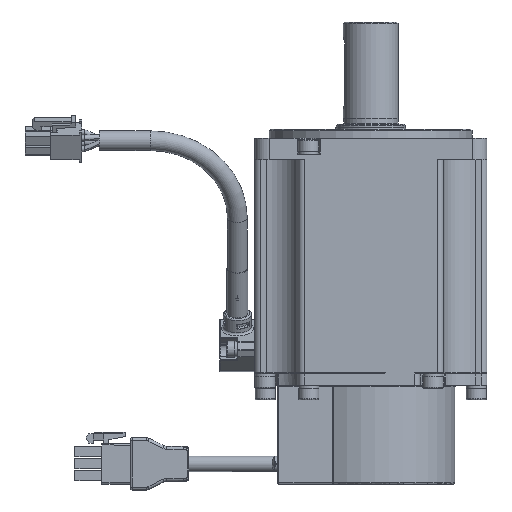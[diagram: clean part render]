
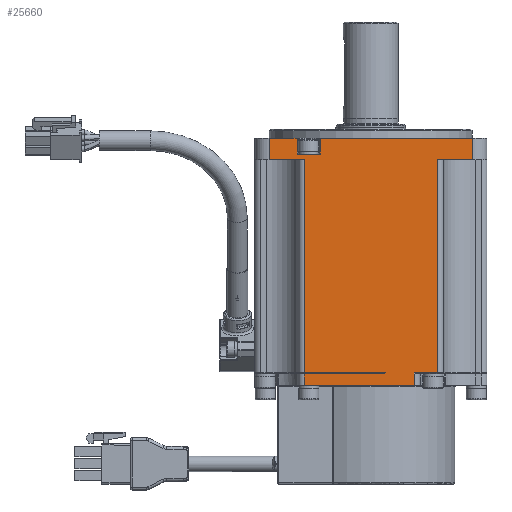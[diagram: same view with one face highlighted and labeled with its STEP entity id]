
A CAD part, left-side view. The second image highlights one B-rep face of the part: STEP entity #25660.
In plain terms, the highlighted planar face has unit normal (-1, 0, 0).
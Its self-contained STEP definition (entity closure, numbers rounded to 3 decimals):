
#1259=PLANE('',#27317);
#2194=FACE_OUTER_BOUND('',#3596,.T.);
#3596=EDGE_LOOP('',(#18334,#18335,#18336,#18337,#18338,#18339,#18340,#18341,
#18342,#18343,#18344,#18345,#18346,#18347,#18348,#18349,#18350,#18351));
#5255=LINE('',#37343,#7452);
#5271=LINE('',#37402,#7468);
#5285=LINE('',#37463,#7482);
#5344=LINE('',#37757,#7541);
#5346=LINE('',#37762,#7543);
#5420=LINE('',#38206,#7617);
#5421=LINE('',#38209,#7618);
#5506=LINE('',#38670,#7703);
#5507=LINE('',#38675,#7704);
#5508=LINE('',#38677,#7705);
#5509=LINE('',#38679,#7706);
#5510=LINE('',#38681,#7707);
#5511=LINE('',#38683,#7708);
#5512=LINE('',#38685,#7709);
#5513=LINE('',#38687,#7710);
#5514=LINE('',#38689,#7711);
#5515=LINE('',#38691,#7712);
#5516=LINE('',#38692,#7713);
#7452=VECTOR('',#30199,1000.);
#7468=VECTOR('',#30249,1000.);
#7482=VECTOR('',#30299,1000.);
#7541=VECTOR('',#30482,1000.);
#7543=VECTOR('',#30488,1000.);
#7617=VECTOR('',#30764,1000.);
#7618=VECTOR('',#30767,1000.);
#7703=VECTOR('',#31176,1000.);
#7704=VECTOR('',#31183,1000.);
#7705=VECTOR('',#31184,1000.);
#7706=VECTOR('',#31185,1000.);
#7707=VECTOR('',#31186,1000.);
#7708=VECTOR('',#31187,1000.);
#7709=VECTOR('',#31188,1000.);
#7710=VECTOR('',#31189,1000.);
#7711=VECTOR('',#31190,1000.);
#7712=VECTOR('',#31191,1000.);
#7713=VECTOR('',#31192,1000.);
#10498=VERTEX_POINT('',#37340);
#10499=VERTEX_POINT('',#37342);
#10524=VERTEX_POINT('',#37399);
#10525=VERTEX_POINT('',#37401);
#10554=VERTEX_POINT('',#37462);
#10611=VERTEX_POINT('',#37760);
#10671=VERTEX_POINT('',#38204);
#10672=VERTEX_POINT('',#38208);
#10814=VERTEX_POINT('',#38669);
#10815=VERTEX_POINT('',#38674);
#10816=VERTEX_POINT('',#38676);
#10817=VERTEX_POINT('',#38678);
#10818=VERTEX_POINT('',#38680);
#10819=VERTEX_POINT('',#38682);
#10820=VERTEX_POINT('',#38684);
#10821=VERTEX_POINT('',#38686);
#10822=VERTEX_POINT('',#38688);
#10823=VERTEX_POINT('',#38690);
#13152=EDGE_CURVE('',#10499,#10498,#5255,.T.);
#13181=EDGE_CURVE('',#10525,#10524,#5271,.T.);
#13212=EDGE_CURVE('',#10525,#10554,#5285,.T.);
#13306=EDGE_CURVE('',#10554,#10498,#5344,.T.);
#13308=EDGE_CURVE('',#10499,#10611,#5346,.T.);
#13433=EDGE_CURVE('',#10671,#10524,#5420,.T.);
#13434=EDGE_CURVE('',#10611,#10672,#5421,.T.);
#13633=EDGE_CURVE('',#10672,#10814,#5506,.T.);
#13636=EDGE_CURVE('',#10671,#10815,#5507,.T.);
#13637=EDGE_CURVE('',#10815,#10816,#5508,.T.);
#13638=EDGE_CURVE('',#10816,#10817,#5509,.T.);
#13639=EDGE_CURVE('',#10817,#10818,#5510,.T.);
#13640=EDGE_CURVE('',#10818,#10819,#5511,.T.);
#13641=EDGE_CURVE('',#10819,#10820,#5512,.T.);
#13642=EDGE_CURVE('',#10820,#10821,#5513,.T.);
#13643=EDGE_CURVE('',#10821,#10822,#5514,.T.);
#13644=EDGE_CURVE('',#10822,#10823,#5515,.T.);
#13645=EDGE_CURVE('',#10823,#10814,#5516,.T.);
#18334=ORIENTED_EDGE('',*,*,#13433,.F.);
#18335=ORIENTED_EDGE('',*,*,#13636,.T.);
#18336=ORIENTED_EDGE('',*,*,#13637,.T.);
#18337=ORIENTED_EDGE('',*,*,#13638,.T.);
#18338=ORIENTED_EDGE('',*,*,#13639,.T.);
#18339=ORIENTED_EDGE('',*,*,#13640,.T.);
#18340=ORIENTED_EDGE('',*,*,#13641,.T.);
#18341=ORIENTED_EDGE('',*,*,#13642,.T.);
#18342=ORIENTED_EDGE('',*,*,#13643,.T.);
#18343=ORIENTED_EDGE('',*,*,#13644,.T.);
#18344=ORIENTED_EDGE('',*,*,#13645,.T.);
#18345=ORIENTED_EDGE('',*,*,#13633,.F.);
#18346=ORIENTED_EDGE('',*,*,#13434,.F.);
#18347=ORIENTED_EDGE('',*,*,#13308,.F.);
#18348=ORIENTED_EDGE('',*,*,#13152,.T.);
#18349=ORIENTED_EDGE('',*,*,#13306,.F.);
#18350=ORIENTED_EDGE('',*,*,#13212,.F.);
#18351=ORIENTED_EDGE('',*,*,#13181,.T.);
#25660=ADVANCED_FACE('',(#2194),#1259,.T.);
#27317=AXIS2_PLACEMENT_3D('',#38673,#31181,#31182);
#30199=DIRECTION('',(0.,1.,0.));
#30249=DIRECTION('',(0.,0.,1.));
#30299=DIRECTION('',(0.,1.,0.));
#30482=DIRECTION('',(0.,0.,1.));
#30488=DIRECTION('',(0.,-1.,0.017));
#30764=DIRECTION('',(0.,1.,0.));
#30767=DIRECTION('',(0.,1.,0.));
#31176=DIRECTION('',(0.,0.,1.));
#31181=DIRECTION('center_axis',(-1.,0.,0.));
#31182=DIRECTION('ref_axis',(0.,0.,
-1.));
#31183=DIRECTION('',(0.,0.,1.));
#31184=DIRECTION('',(0.,-1.,0.));
#31185=DIRECTION('',(0.,0.,1.));
#31186=DIRECTION('',(0.,1.,0.));
#31187=DIRECTION('',(0.,0.,-1.));
#31188=DIRECTION('',(0.,1.,0.));
#31189=DIRECTION('',(0.,0.,1.));
#31190=DIRECTION('',(0.,1.,0.));
#31191=DIRECTION('',(0.,0.,-1.));
#31192=DIRECTION('',(0.,-1.,0.));
#37340=CARTESIAN_POINT('',(-39.927,23.,5.153));
#37342=CARTESIAN_POINT('',(-39.927,13.,5.153));
#37343=CARTESIAN_POINT('',(-39.927,-15.,5.153));
#37399=CARTESIAN_POINT('',(-39.927,-15.,5.453));
#37401=CARTESIAN_POINT('',(-39.927,-15.,1.153));
#37402=CARTESIAN_POINT('',(-39.927,-15.,-4.847));
#37462=CARTESIAN_POINT('',(-39.927,23.,1.153));
#37463=CARTESIAN_POINT('',(-39.927,-15.,1.153));
#37757=CARTESIAN_POINT('',(-39.927,23.,-4.847));
#37760=CARTESIAN_POINT('',(-39.927,-5.,5.453));
#37762=CARTESIAN_POINT('',(-39.927,13.,5.153));
#38204=CARTESIAN_POINT('',(-39.927,-23.,5.453));
#38206=CARTESIAN_POINT('',(-39.927,0.,5.453));
#38208=CARTESIAN_POINT('',(-39.927,23.,5.453));
#38209=CARTESIAN_POINT('',(-39.927,0.,5.453));
#38669=CARTESIAN_POINT('',(-39.927,23.,78.853));
#38670=CARTESIAN_POINT('',(-39.927,23.,76.803));
#38673=CARTESIAN_POINT('Origin',(-39.927,23.01,74.763));
#38674=CARTESIAN_POINT('',(-39.927,-23.,78.853));
#38675=CARTESIAN_POINT('',(-39.927,-23.,80.553));
#38676=CARTESIAN_POINT('',(-39.927,-35.,78.853));
#38677=CARTESIAN_POINT('',(-39.927,0.,78.853));
#38678=CARTESIAN_POINT('',(-39.927,-35.,86.353));
#38679=CARTESIAN_POINT('',(-39.927,-35.,80.553));
#38680=CARTESIAN_POINT('',(-39.927,17.4,86.353));
#38681=CARTESIAN_POINT('',(-39.927,0.,86.353));
#38682=CARTESIAN_POINT('',(-39.927,17.4,80.853));
#38683=CARTESIAN_POINT('',(-39.927,17.4,80.553));
#38684=CARTESIAN_POINT('',(-39.927,25.4,80.853));
#38685=CARTESIAN_POINT('',(-39.927,0.,80.853));
#38686=CARTESIAN_POINT('',(-39.927,25.4,86.353));
#38687=CARTESIAN_POINT('',(-39.927,25.4,80.553));
#38688=CARTESIAN_POINT('',(-39.927,35.,86.353));
#38689=CARTESIAN_POINT('',(-39.927,0.,86.353));
#38690=CARTESIAN_POINT('',(-39.927,35.,78.853));
#38691=CARTESIAN_POINT('',(-39.927,35.,80.553));
#38692=CARTESIAN_POINT('',(-39.927,0.,78.853));
